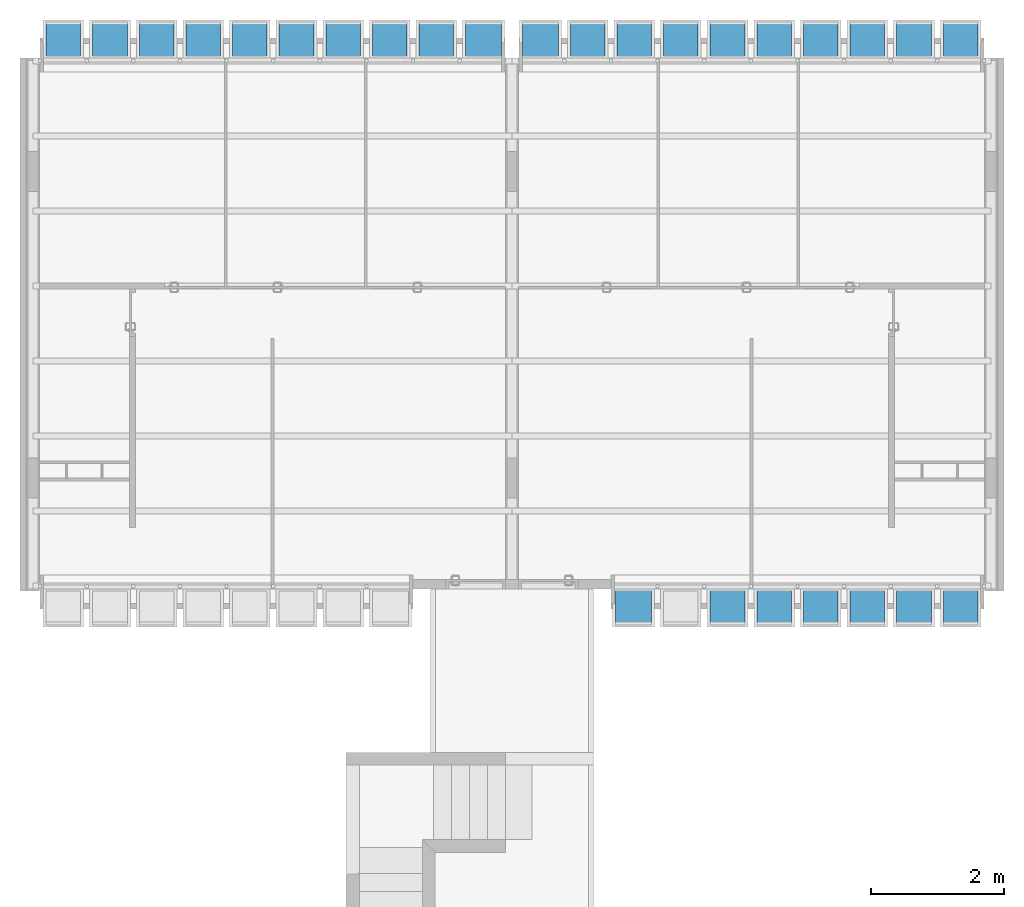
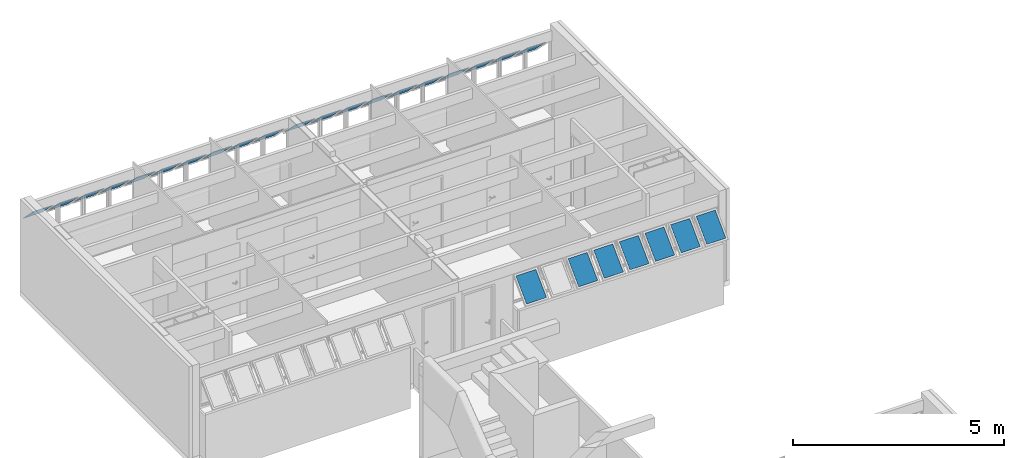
# One storey, part 36 of 37: 27 building element parts, 30 elements without a shape of their own.
"""IFC2X3 building model written with IfcOpenShell, lengths in millimetres."""

from ifc_helpers import new_model, entity, si_unit, converted_unit, derived_unit, money_unit, direction, frame, origin_with_axes, place, context, subcontext, project, spatial, faceted_brep, source, transform, mapped, material, type_object, element, aggregate, save


model = new_model("IFC2X3")

# Units and contexts
model_context = context("Model", 3, precision=0.01, world=origin_with_axes(), true_north=direction((0.0, 1.0)))
body_context = subcontext(model_context, "Body", "Model", "MODEL_VIEW")
ifc_project = project(units=[si_unit("LENGTHUNIT", "METRE", prefix="MILLI"), si_unit("AREAUNIT", "SQUARE_METRE"), si_unit("VOLUMEUNIT", "CUBIC_METRE"), converted_unit("PLANEANGLEUNIT", "DEGREE", entity("IfcPlaneAngleMeasure", 0.0174532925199), si_unit("PLANEANGLEUNIT", "RADIAN"), dimensions=[0, 0, 0, 0, 0, 0, 0]), money_unit("USD"), converted_unit("TIMEUNIT", "Year", entity("IfcTimeMeasure", 31556926.0), si_unit("TIMEUNIT", "SECOND"), dimensions=[0, 0, 1, 0, 0, 0, 0]), si_unit("MASSUNIT", "GRAM", prefix="KILO"), si_unit("THERMODYNAMICTEMPERATUREUNIT", "DEGREE_CELSIUS"), si_unit("LUMINOUSINTENSITYUNIT", "LUMEN"), si_unit("ENERGYUNIT", "JOULE", prefix="MEGA"), derived_unit("THERMALCONDUCTANCEUNIT", [(si_unit("POWERUNIT", "WATT"), 1), (si_unit("LENGTHUNIT", "METRE"), -1), (si_unit("THERMODYNAMICTEMPERATUREUNIT", "KELVIN"), -1)]), derived_unit("SPECIFICHEATCAPACITYUNIT", [(si_unit("ENERGYUNIT", "JOULE"), 1), (si_unit("MASSUNIT", "GRAM", prefix="KILO"), -1), (si_unit("THERMODYNAMICTEMPERATUREUNIT", "KELVIN"), -1)]), derived_unit("MASSDENSITYUNIT", [(si_unit("MASSUNIT", "GRAM", prefix="KILO"), 1), (si_unit("VOLUMEUNIT", "CUBIC_METRE"), -1)])], contexts=[model_context])

# Site, building, storey
site_placement = place(None, origin_with_axes())
site = spatial("IfcSite", under=ifc_project, at=site_placement, Name="Local", CompositionType="ELEMENT")
building_placement = place(site_placement, origin_with_axes())
building = spatial("IfcBuilding", under=site, at=building_placement, Name="Construção", CompositionType="ELEMENT")
storey_placement = place(building_placement, origin_with_axes())
storey = spatial("IfcBuildingStorey", under=building, at=storey_placement, Name="Primeiro Pavimento", CompositionType="ELEMENT", Elevation=0.0)

# Window, plates, building element parts
window_style = type_object("IfcWindowStyle", Name="Tipo de Parede Cortina", ConstructionType="NOTDEFINED", OperationType="NOTDEFINED", ParameterTakesPrecedence=False, Sizeable=False)
window_1_placement = place(storey_placement, frame((8520.0, 25844.9790225, 1355.02054151), z_axis=(0.0, 0.0, 1.0), x_axis=(1.0, 0.0, 0.0)))
window_1 = element("IfcWindow", 1, at=window_1_placement, inside=storey, type_object=window_style, Name="APTO4-JANELA-001")
plate_type_1 = type_object("IfcPlateType", Name="Painel Principal 690 x 845 x 20", PredefinedType="CURTAIN_PANEL")
plate_1_placement = place(window_1_placement, frame((0.0, 0.0, 422.499945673), z_axis=(0.0, 0.0, 1.0), x_axis=(1.0, 0.0, 0.0)))
plate_1 = element("IfcPlate", 2, at=plate_1_placement, type_object=plate_type_1, Name="APTO4-Painel-Prin-030")
ifc_material = material(Name="Vidro")
shared_shape_1 = source(origin_with_axes(), body_context, "Body", "Brep", [
    faceted_brep([(90.0000036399, 272.749572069, 537.551834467), (609.999997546, 272.749572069, 537.551834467), (609.999997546, 284.063280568, 548.865542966), (90.0000036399, 284.063280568, 548.865542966), (90.0000036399, 778.330843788, 31.9705627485), (609.999997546, 778.330843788, 31.9705627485), (609.999997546, 789.644552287, 43.2842712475), (90.0000036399, 789.644552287, 43.2842712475)], [[[0, 1, 2, 3]], [[0, 4, 5, 1]], [[1, 5, 6, 2]], [[3, 2, 6, 7]], [[4, 0, 3, 7]], [[5, 4, 7, 6]]]),
])
building_element_part_1_placement = place(plate_1_placement, origin_with_axes())
building_element_part_1 = element("IfcBuildingElementPart", 3, at=building_element_part_1_placement, material=ifc_material, Name="Vidro", context=body_context, shape_type="MappedRepresentation", body=[
    mapped(shared_shape_1, transform((350.0, 0.0, -422.499945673), x_axis=(-1.0, 0.0, 0.0), y_axis=(0.0, 0.0, 1.0), z_axis=(0.0, 1.0, 0.0))),
])
aggregate(plate_1, [building_element_part_1])
plate_2_placement = place(window_1_placement, frame((700.0, 0.0, 422.499945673), z_axis=(0.0, 0.0, 1.0), x_axis=(1.0, 0.0, 0.0)))
plate_2 = element("IfcPlate", 4, at=plate_2_placement, type_object=plate_type_1, Name="APTO4-Painel-Prin-020")
building_element_part_2_placement = place(plate_2_placement, origin_with_axes())
building_element_part_2 = element("IfcBuildingElementPart", 5, at=building_element_part_2_placement, material=ifc_material, Name="Vidro", context=body_context, shape_type="MappedRepresentation", body=[
    mapped(shared_shape_1, transform((350.0, 0.0, -422.499945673), x_axis=(-1.0, 0.0, 0.0), y_axis=(0.0, 0.0, 1.0), z_axis=(0.0, 1.0, 0.0))),
])
aggregate(plate_2, [building_element_part_2])
plate_3_placement = place(window_1_placement, frame((1400.0, 0.0, 422.499945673), z_axis=(0.0, 0.0, 1.0), x_axis=(1.0, 0.0, 0.0)))
plate_3 = element("IfcPlate", 6, at=plate_3_placement, type_object=plate_type_1, Name="APTO4-Painel-Prin-029")
building_element_part_3_placement = place(plate_3_placement, origin_with_axes())
building_element_part_3 = element("IfcBuildingElementPart", 7, at=building_element_part_3_placement, material=ifc_material, Name="Vidro", context=body_context, shape_type="MappedRepresentation", body=[
    mapped(shared_shape_1, transform((350.0, 0.0, -422.499945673), x_axis=(-1.0, 0.0, 0.0), y_axis=(0.0, 0.0, 1.0), z_axis=(0.0, 1.0, 0.0))),
])
aggregate(plate_3, [building_element_part_3])
plate_4_placement = place(window_1_placement, frame((3500.0, 0.0, 422.499945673), z_axis=(0.0, 0.0, 1.0), x_axis=(1.0, 0.0, 0.0)))
plate_4 = element("IfcPlate", 8, at=plate_4_placement, type_object=plate_type_1, Name="APTO4-Painel-Prin-013")
building_element_part_4_placement = place(plate_4_placement, origin_with_axes())
building_element_part_4 = element("IfcBuildingElementPart", 9, at=building_element_part_4_placement, material=ifc_material, Name="Vidro", context=body_context, shape_type="MappedRepresentation", body=[
    mapped(shared_shape_1, transform((350.0, 0.0, -422.499945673), x_axis=(-1.0, 0.0, 0.0), y_axis=(0.0, 0.0, 1.0), z_axis=(0.0, 1.0, 0.0))),
])
aggregate(plate_4, [building_element_part_4])
plate_type_2 = type_object("IfcPlateType", Name="Painel Principal 685 x 845 x 20", PredefinedType="CURTAIN_PANEL")
plate_5_placement = place(window_1_placement, frame((-695.000037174, 0.0, 422.499953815), z_axis=(0.0, 0.0, 1.0), x_axis=(1.0, 0.0, 0.0)))
plate_5 = element("IfcPlate", 10, at=plate_5_placement, type_object=plate_type_2, Name="APTO4-Painel-Prin-031")
shared_shape_2 = source(origin_with_axes(), body_context, "Body", "Brep", [
    faceted_brep([(90.0000046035, 272.749581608, 537.551857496), (625.000079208, 272.749581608, 537.551857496), (625.000079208, 284.063290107, 548.865565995), (90.0000046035, 284.063290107, 548.865565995), (90.0000046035, 778.330876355, 31.9705627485), (625.000079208, 778.330876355, 31.9705627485), (625.000079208, 789.644584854, 43.2842712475), (90.0000046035, 789.644584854, 43.2842712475)], [[[0, 1, 2, 3]], [[0, 4, 5, 1]], [[1, 5, 6, 2]], [[3, 2, 6, 7]], [[4, 0, 3, 7]], [[5, 4, 7, 6]]]),
])
building_element_part_5_placement = place(plate_5_placement, origin_with_axes())
building_element_part_5 = element("IfcBuildingElementPart", 11, at=building_element_part_5_placement, material=ifc_material, Name="Vidro", context=body_context, shape_type="MappedRepresentation", body=[
    mapped(shared_shape_2, transform((345.000037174, 0.0, -422.499953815), x_axis=(-1.0, 0.0, 0.0), y_axis=(0.0, 0.0, 1.0), z_axis=(0.0, 1.0, 0.0))),
])
aggregate(plate_5, [building_element_part_5])
plate_6_placement = place(window_1_placement, frame((5600.0, 0.0, 422.499945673), z_axis=(0.0, 0.0, 1.0), x_axis=(1.0, 0.0, 0.0)))
plate_6 = element("IfcPlate", 12, at=plate_6_placement, type_object=plate_type_1, Name="APTO4-Painel-Prin-013")
shared_shape_3 = source(origin_with_axes(), body_context, "Body", "Brep", [
    faceted_brep([(90.0000036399, 272.749572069, 537.551834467), (609.999997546, 272.749572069, 537.551834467), (609.999997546, 284.063280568, 548.865542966), (90.0000036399, 284.063280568, 548.865542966), (90.0000036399, 778.330843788, 31.9705627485), (609.999997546, 778.330843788, 31.9705627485), (609.999997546, 789.644552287, 43.2842712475), (90.0000036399, 789.644552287, 43.2842712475)], [[[0, 1, 2, 3]], [[0, 4, 5, 1]], [[1, 5, 6, 2]], [[3, 2, 6, 7]], [[4, 0, 3, 7]], [[5, 4, 7, 6]]]),
])
building_element_part_6_placement = place(plate_6_placement, origin_with_axes())
building_element_part_6 = element("IfcBuildingElementPart", 13, at=building_element_part_6_placement, material=ifc_material, Name="Vidro", context=body_context, shape_type="MappedRepresentation", body=[
    mapped(shared_shape_3, transform((350.0, 0.0, -422.499945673), x_axis=(-1.0, 0.0, 0.0), y_axis=(0.0, 0.0, 1.0), z_axis=(0.0, 1.0, 0.0))),
])
aggregate(plate_6, [building_element_part_6])
plate_7_placement = place(window_1_placement, frame((4900.0, 0.0, 422.499945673), z_axis=(0.0, 0.0, 1.0), x_axis=(1.0, 0.0, 0.0)))
plate_7 = element("IfcPlate", 14, at=plate_7_placement, type_object=plate_type_1, Name="APTO4-Painel-Prin-013")
building_element_part_7_placement = place(plate_7_placement, origin_with_axes())
building_element_part_7 = element("IfcBuildingElementPart", 15, at=building_element_part_7_placement, material=ifc_material, Name="Vidro", context=body_context, shape_type="MappedRepresentation", body=[
    mapped(shared_shape_3, transform((350.0, 0.0, -422.499945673), x_axis=(-1.0, 0.0, 0.0), y_axis=(0.0, 0.0, 1.0), z_axis=(0.0, 1.0, 0.0))),
])
aggregate(plate_7, [building_element_part_7])
plate_8_placement = place(window_1_placement, frame((2100.0, 0.0, 422.499945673), z_axis=(0.0, 0.0, 1.0), x_axis=(1.0, 0.0, 0.0)))
plate_8 = element("IfcPlate", 16, at=plate_8_placement, type_object=plate_type_1, Name="APTO4-Painel-Prin-025")
building_element_part_8_placement = place(plate_8_placement, origin_with_axes())
building_element_part_8 = element("IfcBuildingElementPart", 17, at=building_element_part_8_placement, material=ifc_material, Name="Vidro", context=body_context, shape_type="MappedRepresentation", body=[
    mapped(shared_shape_3, transform((350.0, 0.0, -422.499945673), x_axis=(-1.0, 0.0, 0.0), y_axis=(0.0, 0.0, 1.0), z_axis=(0.0, 1.0, 0.0))),
])
aggregate(plate_8, [building_element_part_8])
plate_9_placement = place(window_1_placement, frame((2800.0, 0.0, 422.499945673), z_axis=(0.0, 0.0, 1.0), x_axis=(1.0, 0.0, 0.0)))
plate_9 = element("IfcPlate", 18, at=plate_9_placement, type_object=plate_type_1, Name="APTO4-Painel-Prin-013")
shared_shape_4 = source(origin_with_axes(), body_context, "Body", "Brep", [
    faceted_brep([(90.0000036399, 272.749572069, 537.551834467), (609.999997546, 272.749572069, 537.551834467), (609.999997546, 284.063280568, 548.865542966), (90.0000036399, 284.063280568, 548.865542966), (90.0000036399, 778.330843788, 31.9705627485), (609.999997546, 778.330843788, 31.9705627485), (609.999997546, 789.644552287, 43.2842712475), (90.0000036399, 789.644552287, 43.2842712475)], [[[0, 1, 2, 3]], [[0, 4, 5, 1]], [[1, 5, 6, 2]], [[3, 2, 6, 7]], [[4, 0, 3, 7]], [[5, 4, 7, 6]]]),
])
building_element_part_9_placement = place(plate_9_placement, origin_with_axes())
building_element_part_9 = element("IfcBuildingElementPart", 19, at=building_element_part_9_placement, material=ifc_material, Name="Vidro", context=body_context, shape_type="MappedRepresentation", body=[
    mapped(shared_shape_4, transform((350.0, 0.0, -422.499945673), x_axis=(-1.0, 0.0, 0.0), y_axis=(0.0, 0.0, 1.0), z_axis=(0.0, 1.0, 0.0))),
])
aggregate(plate_9, [building_element_part_9])
plate_10_placement = place(window_1_placement, frame((4200.0, 0.0, 422.499945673), z_axis=(0.0, 0.0, 1.0), x_axis=(1.0, 0.0, 0.0)))
plate_10 = element("IfcPlate", 20, at=plate_10_placement, type_object=plate_type_1, Name="APTO4-Painel-Prin-013")
aggregate(window_1, [plate_1, plate_5, plate_6, plate_7, plate_9, plate_8, plate_2, plate_10, plate_3, plate_4])
building_element_part_10_placement = place(plate_10_placement, origin_with_axes())
building_element_part_10 = element("IfcBuildingElementPart", 21, at=building_element_part_10_placement, material=ifc_material, Name="Vidro", context=body_context, shape_type="MappedRepresentation", body=[
    mapped(shared_shape_4, transform((350.0, 0.0, -422.499945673), x_axis=(-1.0, 0.0, 0.0), y_axis=(0.0, 0.0, 1.0), z_axis=(0.0, 1.0, 0.0))),
])
aggregate(plate_10, [building_element_part_10])

# Window, plate, building element part
window_2_placement = place(storey_placement, frame((12020.0, 17910.0, 1355.00007107), z_axis=(0.0, 0.0, 1.0), x_axis=(1.0, 0.0, 0.0)))
window_2 = element("IfcWindow", 22, at=window_2_placement, inside=storey, type_object=window_style, Name="APTO4-JANELA-000")
plate_11_placement = place(window_2_placement, frame((0.0, 0.0, 422.499964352), z_axis=(0.0, 0.0, 1.0), x_axis=(1.0, 0.0, 0.0)))
plate_11 = element("IfcPlate", 23, at=plate_11_placement, type_object=plate_type_1, Name="APTO4-Painel-Prin-013")
shared_shape_5 = source(origin_with_axes(), body_context, "Body", "Brep", [
    faceted_brep([(-90.0000036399, 272.749572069, 537.551834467), (-90.0000036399, 284.063280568, 548.865542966), (-609.999997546, 284.063280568, 548.865542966), (-609.999997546, 272.749572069, 537.551834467), (-90.0000036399, 778.330843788, 31.9705627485), (-90.0000036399, 789.644552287, 43.2842712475), (-609.999997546, 789.644552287, 43.2842712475), (-609.999997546, 778.330843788, 31.9705627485)], [[[0, 1, 2, 3]], [[4, 5, 1, 0]], [[1, 5, 6, 2]], [[3, 2, 6, 7]], [[0, 3, 7, 4]], [[7, 6, 5, 4]]]),
])
building_element_part_11_placement = place(plate_11_placement, origin_with_axes())
building_element_part_11 = element("IfcBuildingElementPart", 24, at=building_element_part_11_placement, material=ifc_material, Name="Vidro", context=body_context, shape_type="MappedRepresentation", body=[
    mapped(shared_shape_5, transform((350.0, 0.0, -422.499964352), x_axis=(1.0, 0.0, 0.0), y_axis=(0.0, 0.0, 1.0), z_axis=(0.0, -1.0, 0.0))),
])
aggregate(plate_11, [building_element_part_11])

# Window, plates, building element parts
window_3_placement = place(storey_placement, frame((6250.0, 25844.9790225, 1355.02054151), z_axis=(0.0, 0.0, 1.0), x_axis=(1.0, 0.0, 0.0)))
window_3 = element("IfcWindow", 25, at=window_3_placement, inside=storey, type_object=window_style, Name="APTO3-JANELA-001")
plate_12_placement = place(window_3_placement, frame((0.0, 0.0, 422.499945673), z_axis=(0.0, 0.0, 1.0), x_axis=(-1.0, 0.0, 0.0)))
plate_12 = element("IfcPlate", 26, at=plate_12_placement, type_object=plate_type_1, Name="APTO3-Painel-Prin-030")
building_element_part_12_placement = place(plate_12_placement, origin_with_axes())
building_element_part_12 = element("IfcBuildingElementPart", 27, at=building_element_part_12_placement, material=ifc_material, Name="Vidro", context=body_context, shape_type="MappedRepresentation", body=[
    mapped(shared_shape_5, transform((350.0, 0.0, -422.499945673), x_axis=(1.0, 0.0, 0.0), y_axis=(0.0, 0.0, 1.0), z_axis=(0.0, -1.0, 0.0))),
])
aggregate(plate_12, [building_element_part_12])
plate_13_placement = place(window_3_placement, frame((-700.0, 0.0, 422.499945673), z_axis=(0.0, 0.0, 1.0), x_axis=(-1.0, 0.0, 0.0)))
plate_13 = element("IfcPlate", 28, at=plate_13_placement, type_object=plate_type_1, Name="APTO3-Painel-Prin-020")
building_element_part_13_placement = place(plate_13_placement, origin_with_axes())
building_element_part_13 = element("IfcBuildingElementPart", 29, at=building_element_part_13_placement, material=ifc_material, Name="Vidro", context=body_context, shape_type="MappedRepresentation", body=[
    mapped(shared_shape_5, transform((350.0, 0.0, -422.499945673), x_axis=(1.0, 0.0, 0.0), y_axis=(0.0, 0.0, 1.0), z_axis=(0.0, -1.0, 0.0))),
])
aggregate(plate_13, [building_element_part_13])
plate_14_placement = place(window_3_placement, frame((-1400.0, 0.0, 422.499945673), z_axis=(0.0, 0.0, 1.0), x_axis=(-1.0, 0.0, 0.0)))
plate_14 = element("IfcPlate", 30, at=plate_14_placement, type_object=plate_type_1, Name="APTO3-Painel-Prin-029")
building_element_part_14_placement = place(plate_14_placement, origin_with_axes())
building_element_part_14 = element("IfcBuildingElementPart", 31, at=building_element_part_14_placement, material=ifc_material, Name="Vidro", context=body_context, shape_type="MappedRepresentation", body=[
    mapped(shared_shape_5, transform((350.0, 0.0, -422.499945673), x_axis=(1.0, 0.0, 0.0), y_axis=(0.0, 0.0, 1.0), z_axis=(0.0, -1.0, 0.0))),
])
aggregate(plate_14, [building_element_part_14])
plate_15_placement = place(window_3_placement, frame((-3500.0, 0.0, 422.499945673), z_axis=(0.0, 0.0, 1.0), x_axis=(-1.0, 0.0, 0.0)))
plate_15 = element("IfcPlate", 32, at=plate_15_placement, type_object=plate_type_1, Name="APTO3-Painel-Prin-013")
building_element_part_15_placement = place(plate_15_placement, origin_with_axes())
building_element_part_15 = element("IfcBuildingElementPart", 33, at=building_element_part_15_placement, material=ifc_material, Name="Vidro", context=body_context, shape_type="MappedRepresentation", body=[
    mapped(shared_shape_5, transform((350.0, 0.0, -422.499945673), x_axis=(1.0, 0.0, 0.0), y_axis=(0.0, 0.0, 1.0), z_axis=(0.0, -1.0, 0.0))),
])
aggregate(plate_15, [building_element_part_15])

# Plate, building element part
plate_16_placement = place(window_2_placement, frame((2100.0, 0.0, 422.499998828), z_axis=(0.0, 0.0, 1.0), x_axis=(1.0, 0.0, 0.0)))
plate_16 = element("IfcPlate", 34, at=plate_16_placement, type_object=plate_type_1, Name="APTO4-Painel-Prin-013")
shared_shape_6 = source(origin_with_axes(), body_context, "Body", "Brep", [
    faceted_brep([(-90.0000036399, 272.749572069, 537.551834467), (-90.0000036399, 284.063280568, 548.865542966), (-609.999997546, 284.063280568, 548.865542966), (-609.999997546, 272.749572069, 537.551834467), (-90.0000036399, 778.330843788, 31.9705627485), (-90.0000036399, 789.644552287, 43.2842712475), (-609.999997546, 789.644552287, 43.2842712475), (-609.999997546, 778.330843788, 31.9705627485)], [[[0, 1, 2, 3]], [[4, 5, 1, 0]], [[1, 5, 6, 2]], [[3, 2, 6, 7]], [[0, 3, 7, 4]], [[7, 6, 5, 4]]]),
])
building_element_part_16_placement = place(plate_16_placement, origin_with_axes())
building_element_part_16 = element("IfcBuildingElementPart", 35, at=building_element_part_16_placement, material=ifc_material, Name="Vidro", context=body_context, shape_type="MappedRepresentation", body=[
    mapped(shared_shape_6, transform((350.0, 0.0, -422.499998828), x_axis=(1.0, 0.0, 0.0), y_axis=(0.0, 0.0, 1.0), z_axis=(0.0, -1.0, 0.0))),
])
aggregate(plate_16, [building_element_part_16])

plate_17_placement = place(window_2_placement, frame((1400.0, 0.0, 422.499964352), z_axis=(0.0, 0.0, 1.0), x_axis=(1.0, 0.0, 0.0)))
plate_17 = element("IfcPlate", 36, at=plate_17_placement, type_object=plate_type_1, Name="APTO4-Painel-Prin-013")
building_element_part_17_placement = place(plate_17_placement, origin_with_axes())
building_element_part_17 = element("IfcBuildingElementPart", 37, at=building_element_part_17_placement, material=ifc_material, Name="Vidro", context=body_context, shape_type="MappedRepresentation", body=[
    mapped(shared_shape_6, transform((350.0, 0.0, -422.499964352), x_axis=(1.0, 0.0, 0.0), y_axis=(0.0, 0.0, 1.0), z_axis=(0.0, -1.0, 0.0))),
])
aggregate(plate_17, [building_element_part_17])

plate_18_placement = place(window_2_placement, frame((-1400.0, 0.0, 422.499964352), z_axis=(0.0, 0.0, 1.0), x_axis=(1.0, 0.0, 0.0)))
plate_18 = element("IfcPlate", 38, at=plate_18_placement, type_object=plate_type_1, Name="APTO4-Painel-Prin-025")
building_element_part_18_placement = place(plate_18_placement, origin_with_axes())
building_element_part_18 = element("IfcBuildingElementPart", 39, at=building_element_part_18_placement, material=ifc_material, Name="Vidro", context=body_context, shape_type="MappedRepresentation", body=[
    mapped(shared_shape_6, transform((350.0, 0.0, -422.499964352), x_axis=(1.0, 0.0, 0.0), y_axis=(0.0, 0.0, 1.0), z_axis=(0.0, -1.0, 0.0))),
])
aggregate(plate_18, [building_element_part_18])

plate_19_placement = place(window_3_placement, frame((-5600.0, 0.0, 422.499945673), z_axis=(0.0, 0.0, 1.0), x_axis=(-1.0, 0.0, 0.0)))
plate_19 = element("IfcPlate", 40, at=plate_19_placement, type_object=plate_type_1, Name="APTO3-Painel-Prin-013")
building_element_part_19_placement = place(plate_19_placement, origin_with_axes())
building_element_part_19 = element("IfcBuildingElementPart", 41, at=building_element_part_19_placement, material=ifc_material, Name="Vidro", context=body_context, shape_type="MappedRepresentation", body=[
    mapped(shared_shape_6, transform((350.0, 0.0, -422.499945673), x_axis=(1.0, 0.0, 0.0), y_axis=(0.0, 0.0, 1.0), z_axis=(0.0, -1.0, 0.0))),
])
aggregate(plate_19, [building_element_part_19])

plate_20_placement = place(window_3_placement, frame((-4900.0, 0.0, 422.499945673), z_axis=(0.0, 0.0, 1.0), x_axis=(-1.0, 0.0, 0.0)))
plate_20 = element("IfcPlate", 42, at=plate_20_placement, type_object=plate_type_1, Name="APTO3-Painel-Prin-013")
building_element_part_20_placement = place(plate_20_placement, origin_with_axes())
building_element_part_20 = element("IfcBuildingElementPart", 43, at=building_element_part_20_placement, material=ifc_material, Name="Vidro", context=body_context, shape_type="MappedRepresentation", body=[
    mapped(shared_shape_6, transform((350.0, 0.0, -422.499945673), x_axis=(1.0, 0.0, 0.0), y_axis=(0.0, 0.0, 1.0), z_axis=(0.0, -1.0, 0.0))),
])
aggregate(plate_20, [building_element_part_20])

plate_21_placement = place(window_3_placement, frame((-2100.0, 0.0, 422.499945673), z_axis=(0.0, 0.0, 1.0), x_axis=(-1.0, 0.0, 0.0)))
plate_21 = element("IfcPlate", 44, at=plate_21_placement, type_object=plate_type_1, Name="APTO3-Painel-Prin-025")
building_element_part_21_placement = place(plate_21_placement, origin_with_axes())
building_element_part_21 = element("IfcBuildingElementPart", 45, at=building_element_part_21_placement, material=ifc_material, Name="Vidro", context=body_context, shape_type="MappedRepresentation", body=[
    mapped(shared_shape_6, transform((350.0, 0.0, -422.499945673), x_axis=(1.0, 0.0, 0.0), y_axis=(0.0, 0.0, 1.0), z_axis=(0.0, -1.0, 0.0))),
])
aggregate(plate_21, [building_element_part_21])

plate_22_placement = place(window_2_placement, frame((-700.0, 0.0, 422.499964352), z_axis=(0.0, 0.0, 1.0), x_axis=(1.0, 0.0, 0.0)))
plate_22 = element("IfcPlate", 46, at=plate_22_placement, type_object=plate_type_1, Name="APTO4-Painel-Prin-013")
shared_shape_7 = source(origin_with_axes(), body_context, "Body", "Brep", [
    faceted_brep([(-90.0000036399, 272.749572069, 537.551834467), (-90.0000036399, 284.063280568, 548.865542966), (-609.999997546, 284.063280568, 548.865542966), (-609.999997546, 272.749572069, 537.551834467), (-90.0000036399, 778.330843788, 31.9705627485), (-90.0000036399, 789.644552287, 43.2842712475), (-609.999997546, 789.644552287, 43.2842712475), (-609.999997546, 778.330843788, 31.9705627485)], [[[0, 1, 2, 3]], [[4, 5, 1, 0]], [[1, 5, 6, 2]], [[3, 2, 6, 7]], [[0, 3, 7, 4]], [[7, 6, 5, 4]]]),
])
building_element_part_22_placement = place(plate_22_placement, origin_with_axes())
building_element_part_22 = element("IfcBuildingElementPart", 47, at=building_element_part_22_placement, material=ifc_material, Name="Vidro", context=body_context, shape_type="MappedRepresentation", body=[
    mapped(shared_shape_7, transform((350.0, 0.0, -422.499964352), x_axis=(1.0, 0.0, 0.0), y_axis=(0.0, 0.0, 1.0), z_axis=(0.0, -1.0, 0.0))),
])
aggregate(plate_22, [building_element_part_22])

plate_23_placement = place(window_2_placement, frame((700.0, 0.0, 422.499964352), z_axis=(0.0, 0.0, 1.0), x_axis=(1.0, 0.0, 0.0)))
plate_23 = element("IfcPlate", 48, at=plate_23_placement, type_object=plate_type_1, Name="APTO4-Painel-Prin-013")
building_element_part_23_placement = place(plate_23_placement, origin_with_axes())
building_element_part_23 = element("IfcBuildingElementPart", 49, at=building_element_part_23_placement, material=ifc_material, Name="Vidro", context=body_context, shape_type="MappedRepresentation", body=[
    mapped(shared_shape_7, transform((350.0, 0.0, -422.499964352), x_axis=(1.0, 0.0, 0.0), y_axis=(0.0, 0.0, 1.0), z_axis=(0.0, -1.0, 0.0))),
])
aggregate(plate_23, [building_element_part_23])

plate_24_placement = place(window_3_placement, frame((-2800.0, 0.0, 422.499945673), z_axis=(0.0, 0.0, 1.0), x_axis=(-1.0, 0.0, 0.0)))
plate_24 = element("IfcPlate", 50, at=plate_24_placement, type_object=plate_type_1, Name="APTO3-Painel-Prin-013")
building_element_part_24_placement = place(plate_24_placement, origin_with_axes())
building_element_part_24 = element("IfcBuildingElementPart", 51, at=building_element_part_24_placement, material=ifc_material, Name="Vidro", context=body_context, shape_type="MappedRepresentation", body=[
    mapped(shared_shape_7, transform((350.0, 0.0, -422.499945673), x_axis=(1.0, 0.0, 0.0), y_axis=(0.0, 0.0, 1.0), z_axis=(0.0, -1.0, 0.0))),
])
aggregate(plate_24, [building_element_part_24])

plate_25_placement = place(window_3_placement, frame((-4200.0, 0.0, 422.499945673), z_axis=(0.0, 0.0, 1.0), x_axis=(-1.0, 0.0, 0.0)))
plate_25 = element("IfcPlate", 52, at=plate_25_placement, type_object=plate_type_1, Name="APTO3-Painel-Prin-013")
building_element_part_25_placement = place(plate_25_placement, origin_with_axes())
building_element_part_25 = element("IfcBuildingElementPart", 53, at=building_element_part_25_placement, material=ifc_material, Name="Vidro", context=body_context, shape_type="MappedRepresentation", body=[
    mapped(shared_shape_7, transform((350.0, 0.0, -422.499945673), x_axis=(1.0, 0.0, 0.0), y_axis=(0.0, 0.0, 1.0), z_axis=(0.0, -1.0, 0.0))),
])
aggregate(plate_25, [building_element_part_25])

# Plate
plate_type_3 = type_object("IfcPlateType", Name="Painel Principal 695 x 845 x 20", PredefinedType="CURTAIN_PANEL")
plate_26_placement = place(window_2_placement, frame((-2800.0, 0.0, 422.499986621), z_axis=(0.0, 0.0, 1.0), x_axis=(1.0, 0.0, 0.0)))
plate_26 = element("IfcPlate", 54, at=plate_26_placement, type_object=plate_type_3, Name="APTO4-Painel-Prin-020")

aggregate(window_2, [plate_11, plate_16, plate_17, plate_22, plate_18, plate_26, plate_23])

# Building element part
shared_shape_8 = source(origin_with_axes(), body_context, "Body", "Brep", [
    faceted_brep([(-90.0000062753, 272.749598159, 537.551897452), (-90.0000062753, 284.063306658, 548.865605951), (-634.999999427, 284.063306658, 548.865605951), (-634.999999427, 272.749598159, 537.551897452), (-90.0000062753, 778.330932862, 31.9705627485), (-90.0000062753, 789.644641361, 43.2842712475), (-634.999999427, 789.644641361, 43.2842712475), (-634.999999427, 778.330932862, 31.9705627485)], [[[0, 1, 2, 3]], [[4, 5, 1, 0]], [[1, 5, 6, 2]], [[3, 2, 6, 7]], [[0, 3, 7, 4]], [[7, 6, 5, 4]]]),
])
building_element_part_26_placement = place(plate_26_placement, origin_with_axes())
building_element_part_26 = element("IfcBuildingElementPart", 55, at=building_element_part_26_placement, material=ifc_material, Name="Vidro", context=body_context, shape_type="MappedRepresentation", body=[
    mapped(shared_shape_8, transform((350.0, 0.0, -422.499986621), x_axis=(1.0, 0.0, 0.0), y_axis=(0.0, 0.0, 1.0), z_axis=(0.0, -1.0, 0.0))),
])

aggregate(plate_26, [building_element_part_26])

# Plate
plate_27_placement = place(window_3_placement, frame((695.000037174, 0.0, 422.499953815), z_axis=(0.0, 0.0, 1.0), x_axis=(-1.0, 0.0, 0.0)))
plate_27 = element("IfcPlate", 56, at=plate_27_placement, type_object=plate_type_2, Name="APTO3-Painel-Prin-031")

aggregate(window_3, [plate_12, plate_27, plate_19, plate_20, plate_24, plate_21, plate_13, plate_25, plate_14, plate_15])

# Building element part
shared_shape_9 = source(origin_with_axes(), body_context, "Body", "Brep", [
    faceted_brep([(-90.0000046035, 272.749581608, 537.551857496), (-90.0000046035, 284.063290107, 548.865565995), (-625.000079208, 284.063290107, 548.865565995), (-625.000079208, 272.749581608, 537.551857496), (-90.0000046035, 778.330876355, 31.9705627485), (-90.0000046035, 789.644584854, 43.2842712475), (-625.000079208, 789.644584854, 43.2842712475), (-625.000079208, 778.330876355, 31.9705627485)], [[[0, 1, 2, 3]], [[4, 5, 1, 0]], [[1, 5, 6, 2]], [[3, 2, 6, 7]], [[0, 3, 7, 4]], [[7, 6, 5, 4]]]),
])
building_element_part_27_placement = place(plate_27_placement, origin_with_axes())
building_element_part_27 = element("IfcBuildingElementPart", 57, at=building_element_part_27_placement, material=ifc_material, Name="Vidro", context=body_context, shape_type="MappedRepresentation", body=[
    mapped(shared_shape_9, transform((345.000037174, 0.0, -422.499953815), x_axis=(1.0, 0.0, 0.0), y_axis=(0.0, 0.0, 1.0), z_axis=(0.0, -1.0, 0.0))),
])

aggregate(plate_27, [building_element_part_27])

save(model, "model.ifc")
